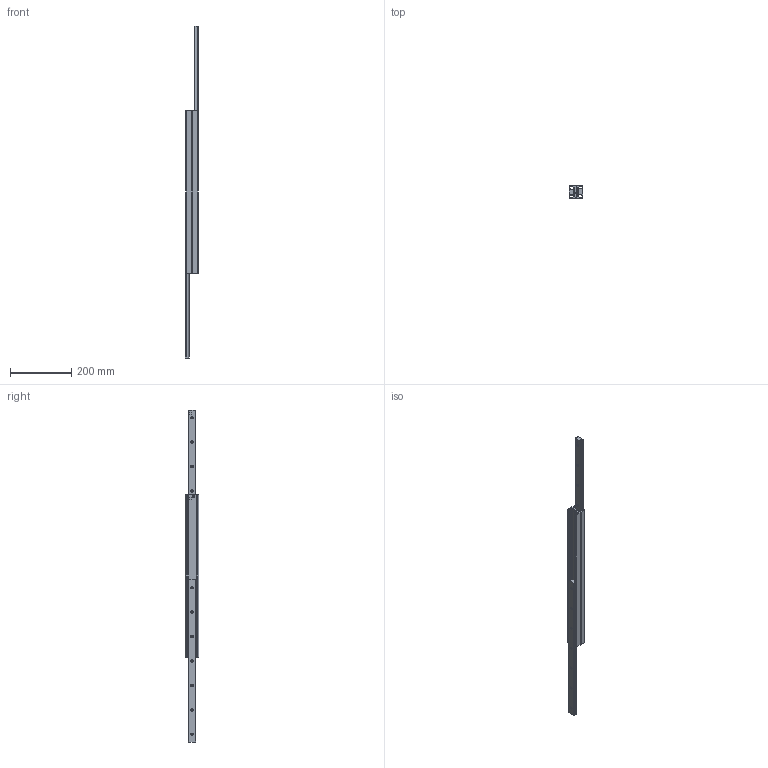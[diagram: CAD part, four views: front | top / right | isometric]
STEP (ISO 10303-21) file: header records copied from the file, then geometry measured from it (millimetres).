
FILE_DESCRIPTION( ( 'STEP AP214' ), '1' );
FILE_NAME( 'p:/temp/worker_87/temp/exporttempdir_3488_665_6gPPk/format_0/DEF43-530556.stp', '2020-03-20T19:53:04', ( 'License CC BY-ND 4.0' ), ( 'CADENAS' ), ' ', 'PARTsolutions', ' ' );
FILE_SCHEMA( ( 'AUTOMOTIVE_DESIGN { 1 0 10303 214 1 1 1 1 }' ) );
Length unit declared in the file: millimetre
Products named in the file (4): DEF43-530556; _432153055612-gf; _43215305561-ei; _432153055611-gf
Assembly tree (4 placements, depth 2):
  DEF43-530556
    _432153055612-gf
    _43215305561-ei  x2
    _432153055611-gf
Bounding box: 44 x 43 x 1086 mm (x, y, z)
Volume: 655415.2 mm3; surface area: 251662.8 mm2
Topology: 4 solids, 4 shells, 194 faces, 490 edges, 316 vertices
Faces by surface type: plane 102, cylinder 60, cone 32
Full cylindrical faces by diameter (mm): 4.134 x2, 6.647 x14, 7 x2
Entity records: 5416 total; most frequent: DIRECTION 744, CARTESIAN_POINT 703, ORIENTED_EDGE 638, EDGE_CURVE 319, AXIS2_PLACEMENT_3D 274, VERTEX_POINT 233, EDGE_LOOP 228, LINE 196
